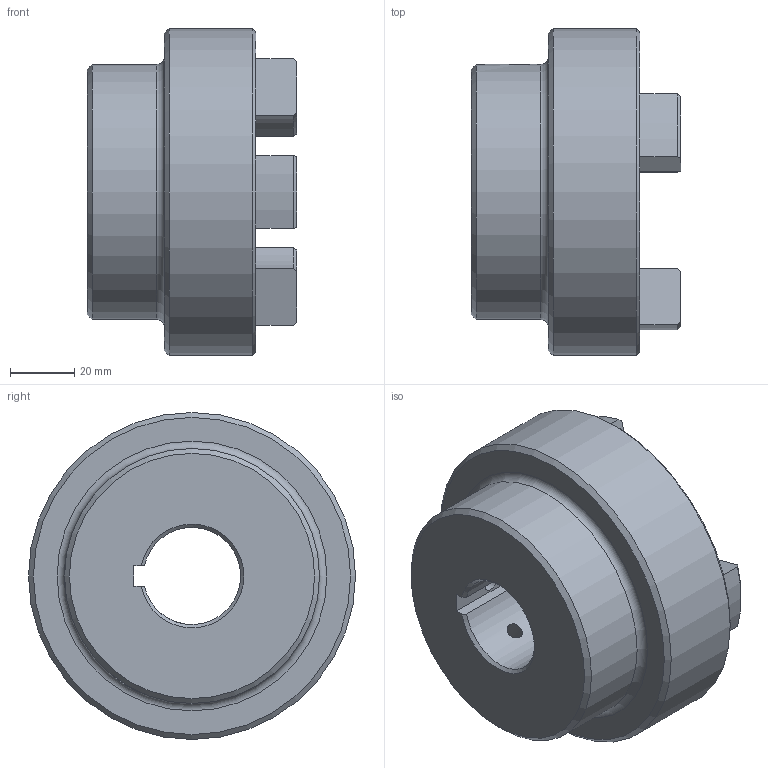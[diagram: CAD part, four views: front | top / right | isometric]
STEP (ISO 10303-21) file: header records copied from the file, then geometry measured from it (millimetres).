
FILE_DESCRIPTION (( 'STEP AP203' ), '1' );
FILE_NAME ('RC4.step', '2024-07-24T17:38:53', ( 'Adlan' ), ( '' ), 'SwSTEP 2.0', 'SolidWorks 2013', '' );
FILE_SCHEMA (( 'CONFIG_CONTROL_DESIGN' ));
Length unit declared in the file: inch
Products named in the file (1): RC4
Bounding box: 65.02 x 101.6 x 101.6 mm (x, y, z)
Volume: 251971.2 mm3; surface area: 41263.6 mm2
Topology: 1 solids, 1 shells, 67 faces, 168 edges, 105 vertices
Faces by surface type: cylinder 26, plane 16, torus 13, cone 12
Full cylindrical faces by diameter (mm): 5.105 x2, 79.248 x1, 101.6 x1
Entity records: 2243 total; most frequent: CARTESIAN_POINT 568, DIRECTION 354, ORIENTED_EDGE 310, EDGE_CURVE 155, AXIS2_PLACEMENT_3D 142, VERTEX_POINT 102, EDGE_LOOP 85, CIRCLE 74
